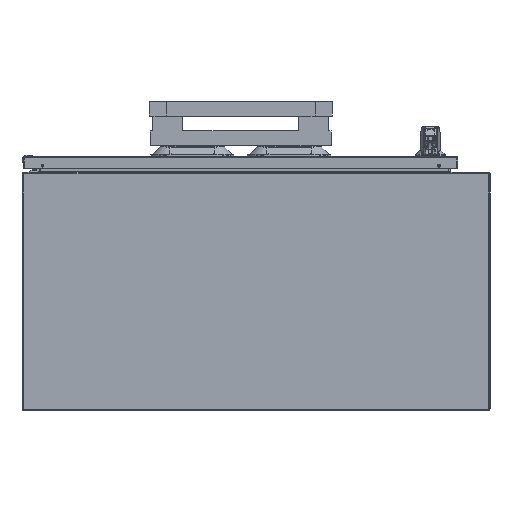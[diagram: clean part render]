
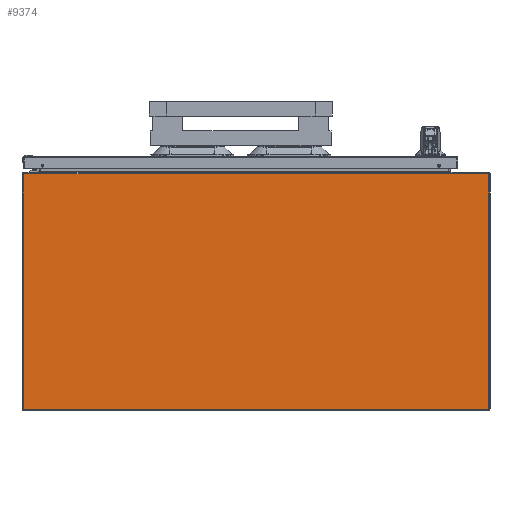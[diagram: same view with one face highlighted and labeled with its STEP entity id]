
A CAD part, front view. The second image highlights one B-rep face of the part: STEP entity #9374.
In plain terms, the highlighted planar face has unit normal (0, -1, 0).
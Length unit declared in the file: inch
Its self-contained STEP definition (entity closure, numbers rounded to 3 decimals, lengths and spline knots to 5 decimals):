
#8157=CARTESIAN_POINT('',(-15.5445,0.,7.857));
#8158=DIRECTION('',(0.,-1.,0.));
#8159=DIRECTION('',(0.,0.,1.));
#8160=AXIS2_PLACEMENT_3D('',#8157,#8158,#8159);
#8165=DIRECTION('',(-1.,0.,0.));
#8166=VECTOR('',#8165,1.03388);
#8167=CARTESIAN_POINT('',(-14.51062,0.,7.937));
#8168=LINE('',#8167,#8166);
#8172=DIRECTION('',(0.174,0.,-0.985));
#8173=VECTOR('',#8172,0.05483);
#8174=CARTESIAN_POINT('',(-14.51062,0.,7.937));
#8175=LINE('',#8174,#8173);
#8179=DIRECTION('',(-1.,0.,0.));
#8180=VECTOR('',#8179,0.0156);
#8181=CARTESIAN_POINT('',(-14.4855,0.,7.883));
#8182=LINE('',#8181,#8180);
#8186=DIRECTION('',(1.,0.,0.));
#8187=VECTOR('',#8186,0.0156);
#8188=CARTESIAN_POINT('',(12.9855,0.,7.883));
#8189=LINE('',#8188,#8187);
#8193=DIRECTION('',(-0.174,0.,-0.985));
#8194=VECTOR('',#8193,0.05483);
#8195=CARTESIAN_POINT('',(13.01062,0.,7.937));
#8196=LINE('',#8195,#8194);
#8200=DIRECTION('',(-1.,0.,0.));
#8201=VECTOR('',#8200,2.53388);
#8202=CARTESIAN_POINT('',(15.5445,0.,7.937));
#8203=LINE('',#8202,#8201);
#8207=CARTESIAN_POINT('',(15.5445,0.,7.857));
#8208=DIRECTION('',(0.,-1.,0.));
#8209=DIRECTION('',(1.,0.,0.));
#8210=AXIS2_PLACEMENT_3D('',#8207,#8208,#8209);
#8215=DIRECTION('',(0.,0.,1.));
#8216=VECTOR('',#8215,15.714);
#8217=CARTESIAN_POINT('',(15.6245,0.,-7.857));
#8218=LINE('',#8217,#8216);
#8222=CARTESIAN_POINT('',(15.5445,0.,-7.857));
#8223=DIRECTION('',(0.,-1.,0.));
#8224=DIRECTION('',(0.,0.,-1.));
#8225=AXIS2_PLACEMENT_3D('',#8222,#8223,#8224);
#8230=DIRECTION('',(1.,0.,0.));
#8231=VECTOR('',#8230,31.089);
#8232=CARTESIAN_POINT('',(-15.5445,0.,-7.937));
#8233=LINE('',#8232,#8231);
#8237=CARTESIAN_POINT('',(-15.5445,0.,-7.857));
#8238=DIRECTION('',(0.,-1.,0.));
#8239=DIRECTION('',(-1.,0.,0.));
#8240=AXIS2_PLACEMENT_3D('',#8237,#8238,#8239);
#8245=DIRECTION('',(0.,0.,-1.));
#8246=VECTOR('',#8245,15.714);
#8247=CARTESIAN_POINT('',(-15.6245,0.,7.857));
#8248=LINE('',#8247,#8246);
#8526=DIRECTION('',(1.,0.,0.));
#8527=VECTOR('',#8526,27.471);
#8528=CARTESIAN_POINT('',(-14.4855,0.,7.883));
#8529=LINE('',#8528,#8527);
#9187=CARTESIAN_POINT('',(12.9855,0.,7.883));
#9188=CARTESIAN_POINT('',(13.0011,0.,7.883));
#9189=VERTEX_POINT('',#9187);
#9190=VERTEX_POINT('',#9188);
#9191=CARTESIAN_POINT('',(13.01062,0.,7.937));
#9192=VERTEX_POINT('',#9191);
#9199=CARTESIAN_POINT('',(-14.4855,0.,7.883));
#9200=CARTESIAN_POINT('',(-14.5011,0.,7.883));
#9201=VERTEX_POINT('',#9199);
#9202=VERTEX_POINT('',#9200);
#9203=CARTESIAN_POINT('',(-14.51062,0.,7.937));
#9204=VERTEX_POINT('',#9203);
#9267=CARTESIAN_POINT('',(-15.5445,0.,7.937));
#9268=CARTESIAN_POINT('',(-15.6245,0.,7.857));
#9269=VERTEX_POINT('',#9267);
#9270=VERTEX_POINT('',#9268);
#9275=CARTESIAN_POINT('',(-15.6245,0.,-7.857));
#9276=CARTESIAN_POINT('',(-15.5445,0.,-7.937));
#9277=VERTEX_POINT('',#9275);
#9278=VERTEX_POINT('',#9276);
#9283=CARTESIAN_POINT('',(15.5445,0.,-7.937));
#9284=CARTESIAN_POINT('',(15.6245,0.,-7.857));
#9285=VERTEX_POINT('',#9283);
#9286=VERTEX_POINT('',#9284);
#9291=CARTESIAN_POINT('',(15.6245,0.,7.857));
#9292=CARTESIAN_POINT('',(15.5445,0.,7.937));
#9293=VERTEX_POINT('',#9291);
#9294=VERTEX_POINT('',#9292);
#9339=CARTESIAN_POINT('',(0.,0.,0.));
#9340=DIRECTION('',(0.,-1.,0.));
#9341=DIRECTION('',(-1.,0.,0.));
#9342=AXIS2_PLACEMENT_3D('',#9339,#9340,#9341);
#9343=PLANE('',#9342);
#9345=ORIENTED_EDGE('',*,*,#9344,.F.);
#9347=ORIENTED_EDGE('',*,*,#9346,.F.);
#9349=ORIENTED_EDGE('',*,*,#9348,.T.);
#9351=ORIENTED_EDGE('',*,*,#9350,.F.);
#9353=ORIENTED_EDGE('',*,*,#9352,.T.);
#9355=ORIENTED_EDGE('',*,*,#9354,.T.);
#9357=ORIENTED_EDGE('',*,*,#9356,.F.);
#9359=ORIENTED_EDGE('',*,*,#9358,.F.);
#9361=ORIENTED_EDGE('',*,*,#9360,.F.);
#9363=ORIENTED_EDGE('',*,*,#9362,.F.);
#9365=ORIENTED_EDGE('',*,*,#9364,.F.);
#9367=ORIENTED_EDGE('',*,*,#9366,.F.);
#9369=ORIENTED_EDGE('',*,*,#9368,.F.);
#9371=ORIENTED_EDGE('',*,*,#9370,.F.);
#9372=EDGE_LOOP('',(#9345,#9347,#9349,#9351,#9353,#9355,#9357,#9359,#9361,#9363,
#9365,#9367,#9369,#9371));
#9373=FACE_OUTER_BOUND('',#9372,.F.);
#8161=CIRCLE('',#8160,0.08);
#8211=CIRCLE('',#8210,0.08);
#8226=CIRCLE('',#8225,0.08);
#8241=CIRCLE('',#8240,0.08);
#9344=EDGE_CURVE('',#9269,#9270,#8161,.T.);
#9346=EDGE_CURVE('',#9204,#9269,#8168,.T.);
#9348=EDGE_CURVE('',#9204,#9202,#8175,.T.);
#9350=EDGE_CURVE('',#9201,#9202,#8182,.T.);
#9352=EDGE_CURVE('',#9201,#9189,#8529,.T.);
#9354=EDGE_CURVE('',#9189,#9190,#8189,.T.);
#9356=EDGE_CURVE('',#9192,#9190,#8196,.T.);
#9358=EDGE_CURVE('',#9294,#9192,#8203,.T.);
#9360=EDGE_CURVE('',#9293,#9294,#8211,.T.);
#9362=EDGE_CURVE('',#9286,#9293,#8218,.T.);
#9364=EDGE_CURVE('',#9285,#9286,#8226,.T.);
#9366=EDGE_CURVE('',#9278,#9285,#8233,.T.);
#9368=EDGE_CURVE('',#9277,#9278,#8241,.T.);
#9370=EDGE_CURVE('',#9270,#9277,#8248,.T.);
#9374=ADVANCED_FACE('',(#9373),#9343,.T.);
